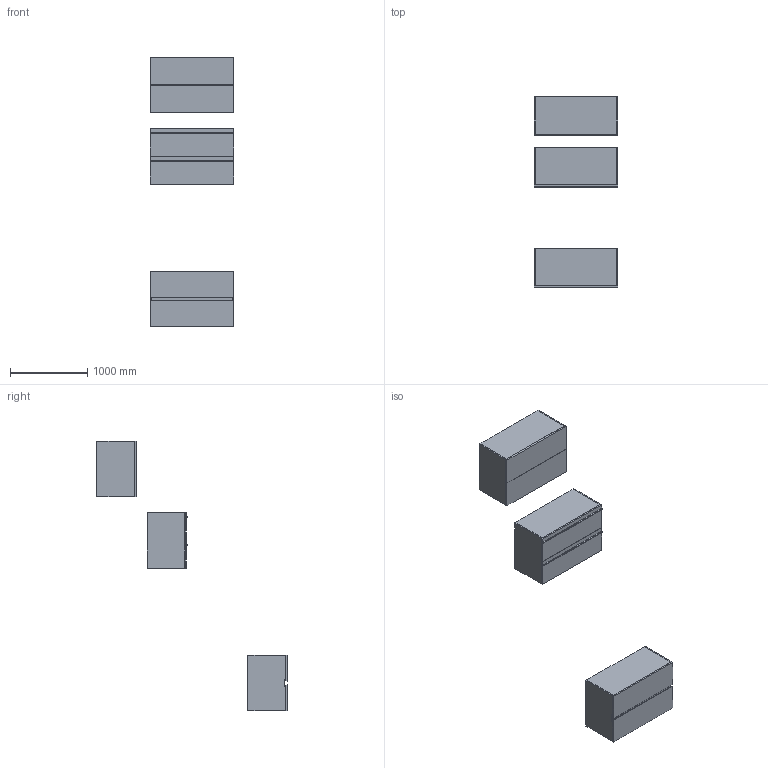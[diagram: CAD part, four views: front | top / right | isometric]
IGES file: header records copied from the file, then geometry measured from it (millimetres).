
Start section: Data from Parasolid IGES Translator 19.0.9, Copyright(c) 2006 Siemens PL M Software. All Rights Reserved.
Global section: file name: noorth-SI-H 72 D 51 W 108_8664.igs; native system: By Siemens PLM Incorporated; preprocessor: XPlus GENERIC/IGES 19.0.9; author: Noname; organization: Noname; date: 20200601.122245; units: metre
Bounding box: 1080 x 2458 x 3480.01 mm (x, y, z)
Volume: 132744217.7 mm3; surface area: 20486198.5 mm2
Topology: 24 solids, 24 shells, 248 faces, 544 edges, 324 vertices
Faces by surface type: plane 164, extrusion 36, bspline 32, cylinder 16
